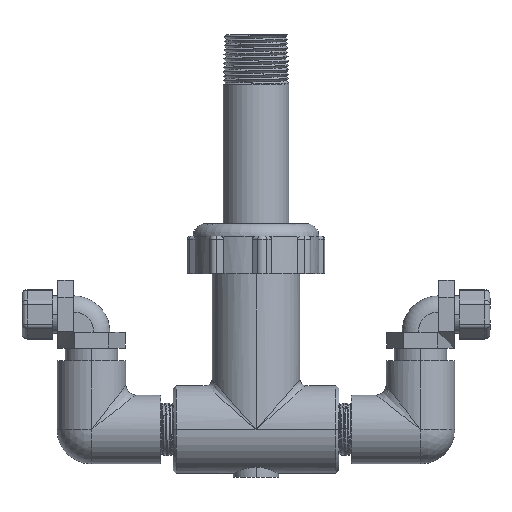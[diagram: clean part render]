
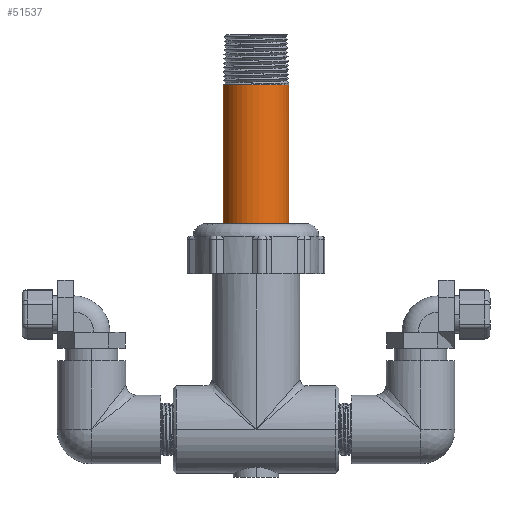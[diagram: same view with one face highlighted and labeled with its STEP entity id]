
A CAD part, top view. The second image highlights one B-rep face of the part: STEP entity #51537.
In plain terms, the highlighted cylindrical face has radius 16.701 mm (diameter 33.401 mm), a partial arc.
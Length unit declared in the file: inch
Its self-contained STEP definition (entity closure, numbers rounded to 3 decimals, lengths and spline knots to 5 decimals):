
#634 = AXIS2_PLACEMENT_3D ( 'NONE', #2421, #19875, #37274 ) ;
#792 = CYLINDRICAL_SURFACE ( 'NONE', #25217, 0.6575 ) ;
#2421 = CARTESIAN_POINT ( 'NONE',  ( 0., 0., 0.5 ) ) ;
#4192 = CARTESIAN_POINT ( 'NONE',  ( -0.6575, 0., 3.45757 ) ) ;
#5014 = EDGE_CURVE ( 'NONE', #51650, #21915, #19110, .T. ) ;
#5022 = CIRCLE ( 'NONE', #44218, 0.6575 ) ;
#6806 = CARTESIAN_POINT ( 'NONE',  ( 0.6575, 0., 3.49995 ) ) ;
#7316 = EDGE_CURVE ( 'NONE', #28242, #31199, #14583, .T. ) ;
#9988 = EDGE_CURVE ( 'NONE', #31199, #21733, #55726, .T. ) ;
#10626 = LINE ( 'NONE', #28060, #43363 ) ;
#12728 = DIRECTION ( 'NONE',  ( -1., 0., 0. ) ) ;
#14583 = B_SPLINE_CURVE_WITH_KNOTS ( 'NONE', 3,
 ( #36607, #54011, #14900, #32319 ),
 .UNSPECIFIED., .F., .F.,
 ( 4, 4 ),
 ( -0.00586, -0.0058 ),
 .UNSPECIFIED. ) ;
#14900 = CARTESIAN_POINT ( 'NONE',  ( 0.6575, 0.00075, 3.49997 ) ) ;
#15734 = CARTESIAN_POINT ( 'NONE',  ( 0.6575, 0.00225, 3.5 ) ) ;
#16056 = EDGE_LOOP ( 'NONE', ( #55439, #22510, #43721, #44443, #40752, #21983 ) ) ;
#16616 = CARTESIAN_POINT ( 'NONE',  ( 0.6575, 0., 4.5 ) ) ;
#18237 = CARTESIAN_POINT ( 'NONE',  ( 0., 0., 4.5 ) ) ;
#18276 = CARTESIAN_POINT ( 'NONE',  ( -0.6575, 0., 0.5 ) ) ;
#19110 = LINE ( 'NONE', #36518, #33916 ) ;
#19875 = DIRECTION ( 'NONE',  ( 0., 0., 1. ) ) ;
#21733 = VERTEX_POINT ( 'NONE', #51698 ) ;
#21915 = VERTEX_POINT ( 'NONE', #18276 ) ;
#21983 = ORIENTED_EDGE ( 'NONE', *, *, #42480, .T. ) ;
#22510 = ORIENTED_EDGE ( 'NONE', *, *, #9988, .T. ) ;
#25217 = AXIS2_PLACEMENT_3D ( 'NONE', #18237, #35652, #53054 ) ;
#25300 = CIRCLE ( 'NONE', #634, 0.6575 ) ;
#28060 = CARTESIAN_POINT ( 'NONE',  ( -0.6575, 0., 4.5 ) ) ;
#28242 = VERTEX_POINT ( 'NONE', #15734 ) ;
#29731 = CARTESIAN_POINT ( 'NONE',  ( -0.6575, 0., 3.5 ) ) ;
#31199 = VERTEX_POINT ( 'NONE', #6806 ) ;
#32319 = CARTESIAN_POINT ( 'NONE',  ( 0.6575, 0., 3.49995 ) ) ;
#33916 = VECTOR ( 'NONE', #53917, 39.37008 ) ;
#34035 = DIRECTION ( 'NONE',  ( 0., 0., -1. ) ) ;
#34437 = CARTESIAN_POINT ( 'NONE',  ( 0., 0., 3.5 ) ) ;
#35652 = DIRECTION ( 'NONE',  ( 0., 0., -1. ) ) ;
#36518 = CARTESIAN_POINT ( 'NONE',  ( -0.6575, 0., 4.5 ) ) ;
#36607 = CARTESIAN_POINT ( 'NONE',  ( 0.6575, 0.00225, 3.5 ) ) ;
#37274 = DIRECTION ( 'NONE',  ( -1., 0., 0. ) ) ;
#39912 = FACE_OUTER_BOUND ( 'NONE', #16056, .T. ) ;
#40752 = ORIENTED_EDGE ( 'NONE', *, *, #46734, .T. ) ;
#42480 = EDGE_CURVE ( 'NONE', #54151, #28242, #5022, .T. ) ;
#43363 = VECTOR ( 'NONE', #45427, 39.37008 ) ;
#43721 = ORIENTED_EDGE ( 'NONE', *, *, #53242, .T. ) ;
#44218 = AXIS2_PLACEMENT_3D ( 'NONE', #34437, #51834, #12728 ) ;
#44443 = ORIENTED_EDGE ( 'NONE', *, *, #5014, .F. ) ;
#45427 = DIRECTION ( 'NONE',  ( 0., 0., 1. ) ) ;
#46734 = EDGE_CURVE ( 'NONE', #51650, #54151, #10626, .T. ) ;
#51537 = ADVANCED_FACE ( 'NONE', ( #39912 ), #792, .T. ) ;
#51650 = VERTEX_POINT ( 'NONE', #4192 ) ;
#51698 = CARTESIAN_POINT ( 'NONE',  ( 0.6575, 0., 0.5 ) ) ;
#51834 = DIRECTION ( 'NONE',  ( 0., 0., -1. ) ) ;
#53054 = DIRECTION ( 'NONE',  ( -1., 0., 0. ) ) ;
#53242 = EDGE_CURVE ( 'NONE', #21733, #21915, #25300, .T. ) ;
#53917 = DIRECTION ( 'NONE',  ( 0., 0., -1. ) ) ;
#53935 = VECTOR ( 'NONE', #34035, 39.37008 ) ;
#54011 = CARTESIAN_POINT ( 'NONE',  ( 0.6575, 0.0015, 3.49998 ) ) ;
#54151 = VERTEX_POINT ( 'NONE', #29731 ) ;
#55439 = ORIENTED_EDGE ( 'NONE', *, *, #7316, .T. ) ;
#55726 = LINE ( 'NONE', #16616, #53935 ) ;
